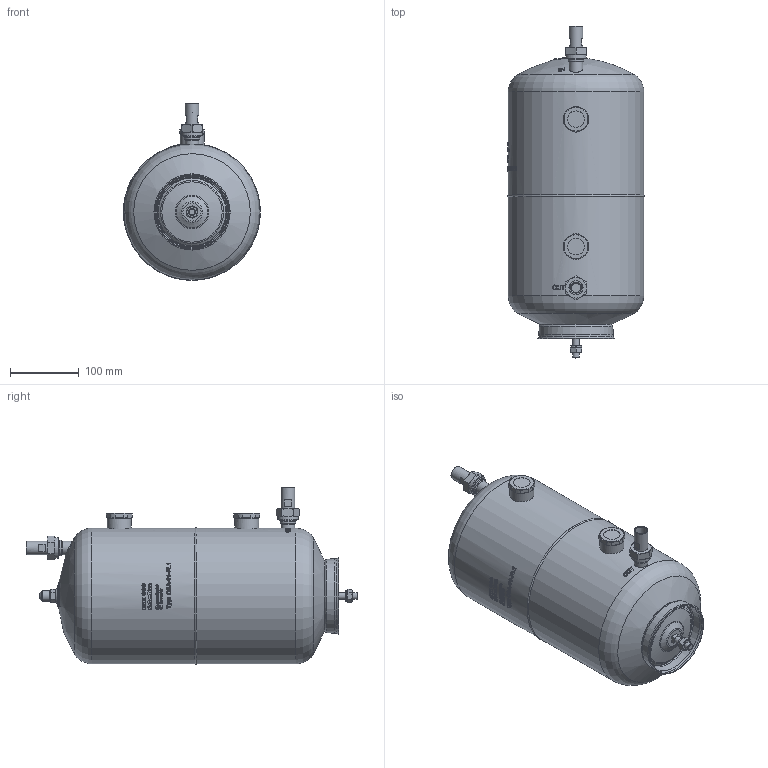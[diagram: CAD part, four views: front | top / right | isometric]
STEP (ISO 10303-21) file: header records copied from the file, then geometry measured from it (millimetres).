
FILE_DESCRIPTION(/* description */ (''),/* implementation_level */ '2;1');
FILE_NAME(/* name */ 'P:\OSA\OSA-11-FL1\OSA-11-FL1.stp',/* time_stamp */ '2017-10-05T08:54:30+02:00',/* author */ ('neufeld'),/* organization */ (''),/* preprocessor_version */ 'ST-DEVELOPER v16.1',/* originating_system */ 'Autodesk Inventor 2016',/* authorisation */ '');
FILE_SCHEMA (('AUTOMOTIVE_DESIGN { 1 0 10303 214 3 1 1 }'));
Length unit declared in the file: millimetre
Products named in the file (6): OSA-11-FL1_1; OSA-11-FL1_2; OSA-11-FL1_3; OSA-11-FL1_4; OSA-11-FL1_5; OSA-11-FL1
Assembly tree (5 placements, depth 2):
  OSA-11-FL1
    OSA-11-FL1_1
    OSA-11-FL1_2
    OSA-11-FL1_3
    OSA-11-FL1_4
    OSA-11-FL1_5
Bounding box: 199.93 x 484.15 x 258.17 mm (x, y, z)
Volume: 11314815.3 mm3; surface area: 316932.5 mm2
Topology: 5 solids, 5 shells, 1713 faces, 4527 edges, 2987 vertices
Faces by surface type: plane 864, bspline 584, cylinder 146, sphere 55, cone 51, torus 13
Full cylindrical faces by diameter (mm): 7.2 x1, 10 x2, 13.5 x4, 15.312 x1, 16.2 x2, 16.9 x2, 18.1 x2, 19.05 x2, 20 x2, 20.1 x2, 20.5 x2, 22.5 x4, 23.2 x2, 23.6 x2, 24.2 x2, 25.2 x2, 30 x2, 32.15 x2, 35 x2, 198 x2
Entity records: 64286 total; most frequent: CARTESIAN_POINT 25044, ORIENTED_EDGE 8882, DIRECTION 6811, EDGE_CURVE 4429, VERTEX_POINT 2969, AXIS2_PLACEMENT_3D 2483, EDGE_LOOP 1964, LINE 1845
